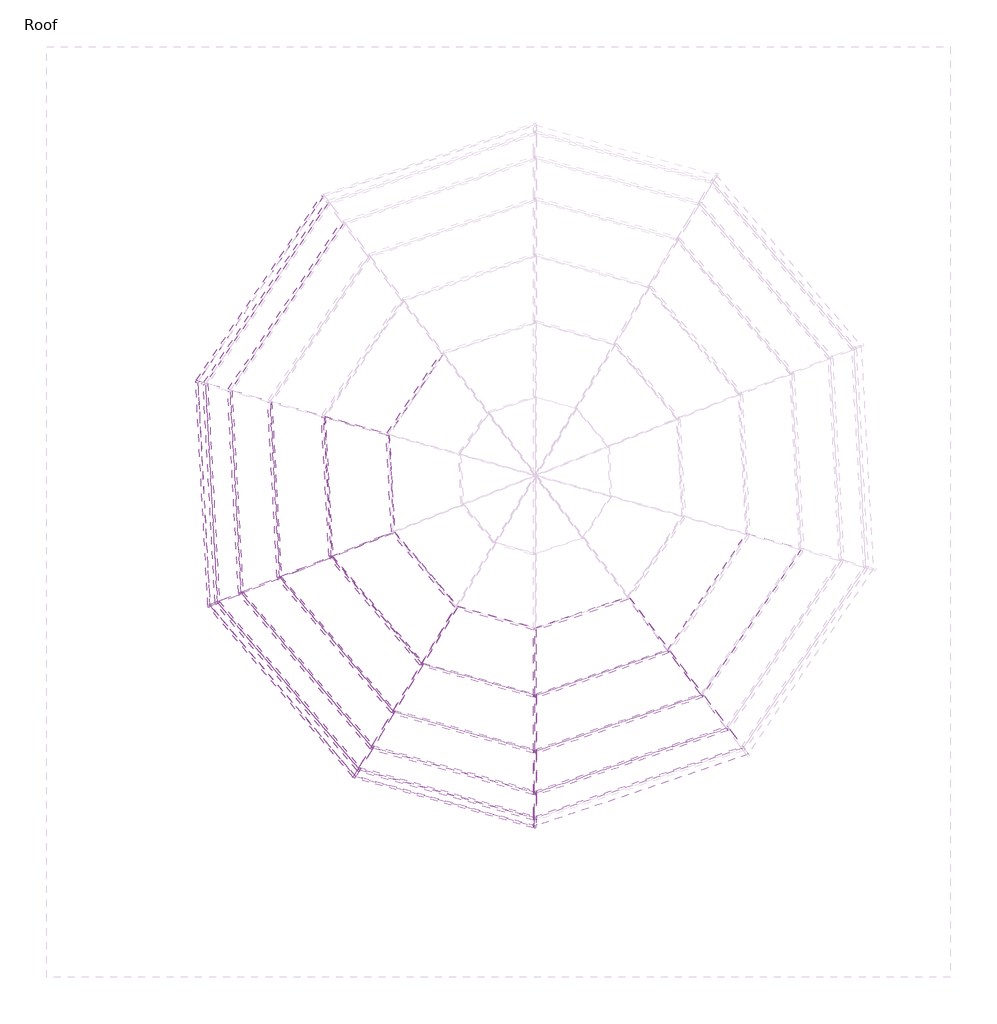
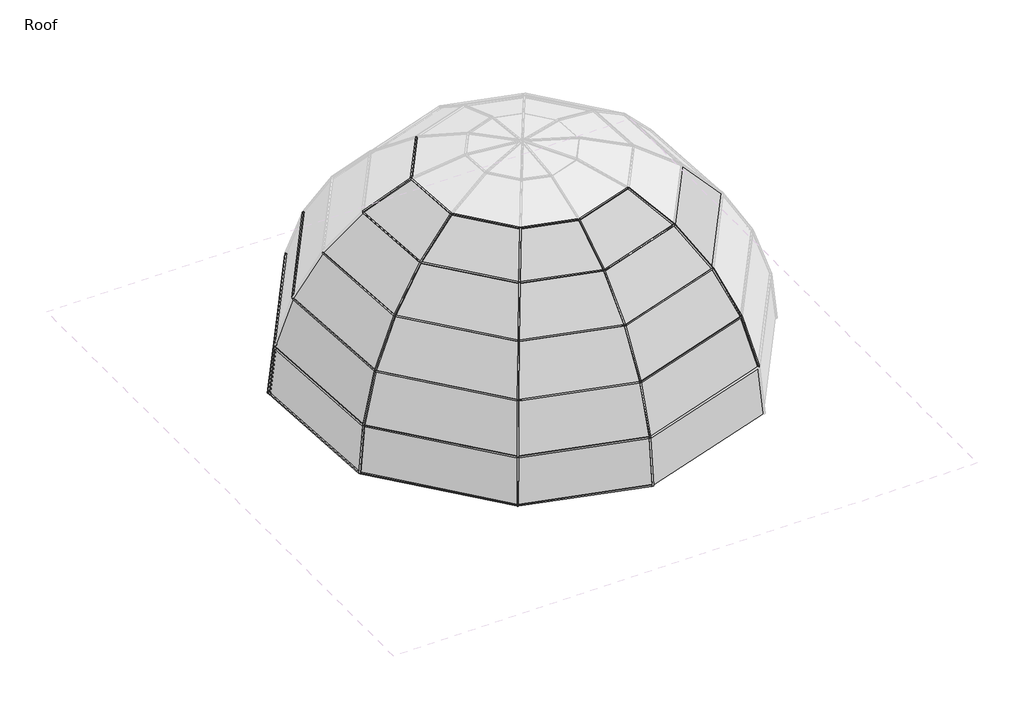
# One storey, part 1 of 3: 47 members, 21 plates.
"""IFC4 building model written with IfcOpenShell, lengths in millimetres."""

from ifc_helpers import new_model, si_unit, origin, place, context, project, spatial, transform, mapped, element, save
from components import member_3f701010, member_f9a14158, member_89d23786, member_520e2632, member_2db6e116, member_55a47f1e, member_6b381be5, member_1e756ab6, member_de8bb536, member_b4df3876, member_36e36e3b, member_bcb438f9, member_733b6783, member_63af7368, member_26d44a89, member_9a48f267, member_0322ee24, member_f8dfbb61, member_bc60f01d, member_39aef841, member_7efd2288, member_aab8bf61, member_12f75a1b, member_980850ec, system_panel_glazed_a35e3d46, system_panel_glazed_e93355c8, system_panel_glazed_0031539c, system_panel_glazed_f3dd288a, system_panel_glazed_23af2605, system_panel_glazed_f170e29b, system_panel_glazed_4e7d729c, system_panel_glazed_2310db81, system_panel_glazed_ed1eaaca, system_panel_glazed_395523a0

model = new_model("IFC4")

# Units and contexts
model_context = context("Model", 3, world=origin())
ifc_project = project(units=[si_unit("LENGTHUNIT", "METRE", prefix="MILLI")], contexts=[model_context])

# Site, building, storey
site = spatial("IfcSite", under=ifc_project)
building = spatial("IfcBuilding", under=site)
storey = spatial("IfcBuildingStorey", under=building, Name="Roof", Elevation=15240.0)

# Members
placement = place(None, origin())
member_shape = member_3f701010(model_context)
element("IfcMember", 1, ObjectType="Rectangular Mullion : 1\" Square", at=placement, inside=storey, context=model_context, shape_type="MappedRepresentation", body=[
    mapped(member_shape, transform((-4902.4292671, -6274.0172556, 20297.5362419), x_axis=(0.857018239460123, -0.5152860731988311, 0.0), y_axis=(0.48811225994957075, 0.8118230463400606, -0.3204524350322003), z_axis=(0.16512467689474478, 0.2746335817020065, 0.947264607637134))),
])
element("IfcMember", 2, ObjectType="Rectangular Mullion : 1\" Square", at=placement, inside=storey, context=model_context, shape_type="MappedRepresentation", body=[
    mapped(member_shape, transform((-6670.8806167, -4193.1887474, 20297.5362419), x_axis=(0.37035586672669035, -0.9288899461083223, 0.0), y_axis=(0.8799045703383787, 0.35082500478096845, -0.3204524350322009), z_axis=(0.297665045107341, 0.11868143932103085, 0.9472646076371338))),
])
element("IfcMember", 3, ObjectType="Rectangular Mullion : 1\" Square", at=placement, inside=storey, context=model_context, shape_type="MappedRepresentation", body=[
    mapped(member_shape, transform((-111.397025, -6013.3165579, 20297.5362419), x_axis=(0.7960457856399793, 0.6052364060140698, 0.0), y_axis=(-0.5733190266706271, 0.7540659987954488, -0.32045243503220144), z_axis=(-0.19394948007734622, 0.25509481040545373, 0.9472646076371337))),
])
member_2_shape = member_f9a14158(model_context)
element("IfcMember", 4, ObjectType="Rectangular Mullion : 1\" Square", at=placement, inside=storey, context=model_context, shape_type="MappedRepresentation", body=[
    mapped(member_2_shape, transform((-4613.935504, -5794.1975403, 21205.6147789), x_axis=(0.8570182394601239, -0.5152860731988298, 0.0), y_axis=(0.43862038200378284, 0.7295086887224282, -0.5248135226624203), z_axis=(0.2704290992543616, 0.44977476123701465, 0.851217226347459))),
])
element("IfcMember", 5, ObjectType="Rectangular Mullion : 1\" Square", at=placement, inside=storey, context=model_context, shape_type="MappedRepresentation", body=[
    mapped(member_2_shape, transform((-4227.8128628, -5152.0025279, 21964.9283585), x_axis=(0.8570182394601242, -0.5152860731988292, 0.0), y_axis=(0.3667638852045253, 0.6099977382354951, -0.7024151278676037), z_axis=(0.3619447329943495, 0.6019825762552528, 0.7117675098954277))),
])
element("IfcMember", 6, ObjectType="Rectangular Mullion : 1\" Square", at=placement, inside=storey, context=model_context, shape_type="MappedRepresentation", body=[
    mapped(member_2_shape, transform((-3763.7491786, -4380.1768133, 22536.7606794), x_axis=(0.8570182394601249, -0.515286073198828, 0.0), y_axis=(0.27620662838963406, 0.45938388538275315, -0.8442016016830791), z_axis=(0.435005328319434, 0.7234961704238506, 0.5360257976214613))),
])
element("IfcMember", 7, ObjectType="Rectangular Mullion : 1\" Square", at=placement, inside=storey, context=model_context, shape_type="MappedRepresentation", body=[
    mapped(member_2_shape, transform((-6150.8220123, -3985.8372135, 21205.6147789), x_axis=(0.3703558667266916, -0.9288899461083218, 0.0), y_axis=(0.7906871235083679, 0.31525329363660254, -0.5248135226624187), z_axis=(0.4874940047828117, 0.19436776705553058, 0.8512172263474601))),
])
element("IfcMember", 8, ObjectType="Rectangular Mullion : 1\" Square", at=placement, inside=storey, context=model_context, shape_type="MappedRepresentation", body=[
    mapped(member_2_shape, transform((-5454.7709099, -3708.31606, 21964.9283585), x_axis=(0.3703558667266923, -0.9288899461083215, 0.0), y_axis=(0.6611536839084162, 0.2636072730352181, -0.7024151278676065), z_axis=(0.6524663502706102, 0.2601435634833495, 0.711767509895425))),
])
element("IfcMember", 9, ObjectType="Rectangular Mullion : 1\" Square", at=placement, inside=storey, context=model_context, shape_type="MappedRepresentation", body=[
    mapped(member_2_shape, transform((-4618.2179482, -3374.775689, 22536.7606794), x_axis=(0.37035586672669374, -0.928889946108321, 0.0), y_axis=(0.49790897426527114, 0.19852029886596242, -0.8442016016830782), z_axis=(0.7841703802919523, 0.31265501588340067, 0.5360257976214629))),
])
element("IfcMember", 10, ObjectType="Rectangular Mullion : 1\" Square", at=placement, inside=storey, context=model_context, shape_type="MappedRepresentation", body=[
    mapped(member_2_shape, transform((-4689.9088481, -2057.274754, 22536.7606794), x_axis=(-0.26737778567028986, -0.9635917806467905, 0.0), y_axis=(0.5165100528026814, -0.14332139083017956, -0.844201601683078), z_axis=(0.81346572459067, -0.22572075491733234, 0.5360257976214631))),
])
element("IfcMember", 11, ObjectType="Rectangular Mullion : 1\" Square", at=placement, inside=storey, context=model_context, shape_type="MappedRepresentation", body=[
    mapped(member_2_shape, transform((-1448.8495202, -4254.2131534, 22536.7606794), x_axis=(0.7960457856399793, 0.6052364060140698, 0.0), y_axis=(-0.32442232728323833, 0.4267010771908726, -0.8442016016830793), z_axis=(-0.5109415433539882, 0.6720231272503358, 0.5360257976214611))),
])
element("IfcMember", 12, ObjectType="Rectangular Mullion : 1\" Square", at=placement, inside=storey, context=model_context, shape_type="MappedRepresentation", body=[
    mapped(member_2_shape, transform((-903.7770817, -4971.1274256, 21964.9283585), x_axis=(0.7960457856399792, 0.6052364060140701, 0.0), y_axis=(-0.4307876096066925, 0.5665995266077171, -0.7024151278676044), z_axis=(-0.42512720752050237, 0.5591546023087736, 0.7117675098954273))),
])
element("IfcMember", 13, ObjectType="Rectangular Mullion : 1\" Square", at=placement, inside=storey, context=model_context, shape_type="MappedRepresentation", body=[
    mapped(member_2_shape, transform((-450.2513768, -5567.6335553, 21205.6147789), x_axis=(0.7960457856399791, 0.6052364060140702, 0.0), y_axis=(-0.515187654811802, 0.6776078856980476, -0.5248135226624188), z_axis=(-0.3176362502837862, 0.41777559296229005, 0.85121722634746))),
])
member_3_shape = member_89d23786(model_context)
element("IfcMember", 14, ObjectType="Rectangular Mullion : 1\" Square", at=placement, inside=storey, context=model_context, shape_type="MappedRepresentation", body=[
    mapped(member_3_shape, transform((-2699.2140381, -7227.2248487, 19286.9943584), x_axis=(0.9639814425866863, -0.2644617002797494, 0.028280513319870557), y_axis=(0.26596950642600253, 0.9585165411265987, -0.10250005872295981), z_axis=(0.0, 0.1063299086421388, 0.9943309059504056))),
])
member_4_shape = member_520e2632(model_context)
element("IfcMember", 15, ObjectType="Rectangular Mullion : 1\" Square", at=placement, inside=storey, context=model_context, shape_type="MappedRepresentation", body=[
    mapped(member_4_shape, transform((-2699.2140381, -6885.366191, 20297.5362419), x_axis=(0.9671484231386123, -0.24080637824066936, 0.08146297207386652), y_axis=(0.2542123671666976, 0.9161454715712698, -0.30992506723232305), z_axis=(0.0, 0.3204524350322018, 0.9472646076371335))),
])
member_5_shape = member_2db6e116(model_context)
element("IfcMember", 16, ObjectType="Rectangular Mullion : 1\" Square", at=placement, inside=storey, context=model_context, shape_type="MappedRepresentation", body=[
    mapped(member_5_shape, transform((-2699.2140381, -6325.495125, 21205.6147789), x_axis=(0.9732211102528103, -0.19567014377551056, 0.12063940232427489), y_axis=(0.2298709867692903, 0.8284225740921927, -0.5107595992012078), z_axis=(0.0, 0.5248135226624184, 0.8512172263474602))),
])
member_6_shape = member_55a47f1e(model_context)
element("IfcMember", 17, ObjectType="Rectangular Mullion : 1\" Square", at=placement, inside=storey, context=model_context, shape_type="MappedRepresentation", body=[
    mapped(member_6_shape, transform((-2699.2140381, -5576.1586666, 21964.9283585), x_axis=(0.9810492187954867, -0.1379111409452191, 0.13609903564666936), y_axis=(0.1937586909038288, 0.698278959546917, -0.6891038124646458), z_axis=(0.0, 0.7024151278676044, 0.7117675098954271))),
])
member_7_shape = member_6b381be5(model_context)
element("IfcMember", 18, ObjectType="Rectangular Mullion : 1\" Square", at=placement, inside=storey, context=model_context, shape_type="MappedRepresentation", body=[
    mapped(member_7_shape, transform((-2699.2140381, -4675.5643979, 22536.7606794), x_axis=(0.989118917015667, -0.07885915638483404, 0.12419742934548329), y_axis=(0.14711821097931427, 0.5301932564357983, -0.8350157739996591), z_axis=(0.0, 0.844201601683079, 0.5360257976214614))),
])
member_8_shape = member_1e756ab6(model_context)
element("IfcMember", 19, ObjectType="Rectangular Mullion : 1\" Square", at=placement, inside=storey, context=model_context, shape_type="MappedRepresentation", body=[
    mapped(member_8_shape, transform((-5141.8560145, -6648.8732098, 18288.0), x_axis=(-0.07682385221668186, -0.06529093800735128, -0.9949046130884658), y_axis=(0.7581024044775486, 0.6442949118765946, -0.10082068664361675), z_axis=(0.6475946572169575, -0.7619850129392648, 0.0))),
])
element("IfcMember", 20, ObjectType="Rectangular Mullion : 1\" Square", at=placement, inside=storey, context=model_context, shape_type="MappedRepresentation", body=[
    mapped(member_8_shape, transform((-7088.3517404, -4346.6814659, 18288.0), x_axis=(-0.10067175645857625, -0.00547798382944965, -0.9949046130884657), y_axis=(0.9934349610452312, 0.05405707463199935, -0.10082068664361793), z_axis=(0.05433392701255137, -0.9985228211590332, 0.0))),
])
element("IfcMember", 21, ObjectType="Rectangular Mullion : 1\" Square", at=placement, inside=storey, context=model_context, shape_type="MappedRepresentation", body=[
    mapped(member_8_shape, transform((-7244.4812027, -1335.9413529, 18288.0), x_axis=(-0.08345480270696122, 0.056569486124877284, -0.9949046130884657), y_axis=(0.8235370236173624, -0.5582310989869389, -0.10082068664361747), z_axis=(-0.5610900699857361, -0.827754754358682, 0.0))),
])
member_9_shape = member_de8bb536(model_context)
element("IfcMember", 22, ObjectType="Rectangular Mullion : 1\" Square", at=placement, inside=storey, context=model_context, shape_type="MappedRepresentation", body=[
    mapped(member_9_shape, transform((-2723.6892693, -7220.4334529, 19286.9943584), x_axis=(-0.058573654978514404, -0.21109118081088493, -0.9757098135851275), y_axis=(0.2608831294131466, 0.9401859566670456, -0.21906702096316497), z_axis=(0.9635917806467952, -0.26737778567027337, 0.0))),
])
member_10_shape = member_b4df3876(model_context)
element("IfcMember", 23, ObjectType="Rectangular Mullion : 1\" Square", at=placement, inside=storey, context=model_context, shape_type="MappedRepresentation", body=[
    mapped(member_10_shape, transform((-5086.8087245, -6557.3191509, 19286.9943584), x_axis=(-0.16959745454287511, -0.1441372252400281, -0.9749159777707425), y_axis=(0.7428713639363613, 0.6313503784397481, -0.22257321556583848), z_axis=(0.6475946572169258, -0.7619850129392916, 0.0))),
])
element("IfcMember", 24, ObjectType="Rectangular Mullion : 1\" Square", at=placement, inside=storey, context=model_context, shape_type="MappedRepresentation", body=[
    mapped(member_10_shape, transform((-6989.1197276, -4307.116867, 19286.9943584), x_axis=(-0.22224443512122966, -0.012093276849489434, -0.9749159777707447), y_axis=(0.9734758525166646, 0.05297101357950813, -0.2225732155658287), z_axis=(0.05433392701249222, -0.9985228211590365, 0.0))),
])
element("IfcMember", 25, ObjectType="Rectangular Mullion : 1\" Square", at=placement, inside=storey, context=model_context, shape_type="MappedRepresentation", body=[
    mapped(member_10_shape, transform((-7141.5420416, -1364.5049475, 19286.9943584), x_axis=(-0.1842360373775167, 0.12488362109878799, -0.9749159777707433), y_axis=(0.8069913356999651, -0.5470156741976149, -0.2225732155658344), z_axis=(-0.5610900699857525, -0.8277547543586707, 0.0))),
])
member_11_shape = member_36e36e3b(model_context)
element("IfcMember", 26, ObjectType="Rectangular Mullion : 1\" Square", at=placement, inside=storey, context=model_context, shape_type="MappedRepresentation", body=[
    mapped(member_11_shape, transform((-4622.1599562, -5784.5203306, 21205.6147789), x_axis=(-0.4861581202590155, -0.4131753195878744, -0.770023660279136), y_axis=(0.586746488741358, 0.4986632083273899, -0.638015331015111), z_axis=(0.6475946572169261, -0.7619850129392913, 0.0))),
])
element("IfcMember", 27, ObjectType="Rectangular Mullion : 1\" Square", at=placement, inside=storey, context=model_context, shape_type="MappedRepresentation", body=[
    mapped(member_11_shape, transform((-6151.5120532, -3973.1559737, 21205.6147789), x_axis=(-0.6370728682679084, -0.03466587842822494, -0.7700236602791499), y_axis=(0.7688861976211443, 0.04183840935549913, -0.6380153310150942), z_axis=(0.054333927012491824, -0.9985228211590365, 0.0))),
])
member_12_shape = member_bcb438f9(model_context)
element("IfcMember", 28, ObjectType="Rectangular Mullion : 1\" Square", at=placement, inside=storey, context=model_context, shape_type="MappedRepresentation", body=[
    mapped(member_12_shape, transform((-2723.6892693, -6878.5747952, 20297.5362419), x_axis=(-0.11721342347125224, -0.422420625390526, -0.8987890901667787), y_axis=(0.24031623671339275, 0.8660657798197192, -0.4383813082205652), z_axis=(0.9635917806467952, -0.26737778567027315, 0.0))),
])
member_13_shape = member_733b6783(model_context)
element("IfcMember", 29, ObjectType="Rectangular Mullion : 1\" Square", at=placement, inside=storey, context=model_context, shape_type="MappedRepresentation", body=[
    mapped(member_13_shape, transform((-6812.1298489, -1455.9103584, 20297.5362419), x_axis=(-0.36778245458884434, 0.24929978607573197, -0.8958714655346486), y_axis=(0.7415618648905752, -0.5026645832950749, -0.4443133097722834), z_axis=(-0.5610900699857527, -0.8277547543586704, 0.0))),
])
element("IfcMember", 30, ObjectType="Rectangular Mullion : 1\" Square", at=placement, inside=storey, context=model_context, shape_type="MappedRepresentation", body=[
    mapped(member_13_shape, transform((-6671.5706575, -4180.5075076, 20297.5362419), x_axis=(-0.4436569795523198, -0.02414128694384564, -0.8958714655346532), y_axis=(0.8945481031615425, 0.048676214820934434, -0.4443133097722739), z_axis=(0.054333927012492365, -0.9985228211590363, 0.0))),
])
element("IfcMember", 31, ObjectType="Rectangular Mullion : 1\" Square", at=placement, inside=storey, context=model_context, shape_type="MappedRepresentation", body=[
    mapped(member_13_shape, transform((-4910.6537192, -6264.3400459, 20297.5362419), x_axis=(-0.33856008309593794, -0.2877349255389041, -0.8958714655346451), y_axis=(0.6826406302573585, 0.5801615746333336, -0.4443133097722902), z_axis=(0.647594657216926, -0.7619850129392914, 0.0))),
])
member_14_shape = member_63af7368(model_context)
element("IfcMember", 32, ObjectType="Rectangular Mullion : 1\" Square", at=placement, inside=storey, context=model_context, shape_type="MappedRepresentation", body=[
    mapped(member_14_shape, transform((-2723.6892693, -6318.7037293, 21205.6147789), x_axis=(-0.1688996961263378, -0.6086906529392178, -0.7752216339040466), y_axis=(0.2072770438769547, 0.7469971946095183, -0.6316893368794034), z_axis=(0.9635917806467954, -0.26737778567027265, 0.0))),
])
member_15_shape = member_26d44a89(model_context)
element("IfcMember", 33, ObjectType="Rectangular Mullion : 1\" Square", at=placement, inside=storey, context=model_context, shape_type="MappedRepresentation", body=[
    mapped(member_15_shape, transform((-5455.4609508, -3695.6348202, 21964.9283585), x_axis=(-0.7932455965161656, -0.04316390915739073, -0.6073699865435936), y_axis=(0.6064727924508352, 0.03300079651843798, -0.7944190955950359), z_axis=(0.054333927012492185, -0.9985228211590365, 0.0))),
])
element("IfcMember", 34, ObjectType="Rectangular Mullion : 1\" Square", at=placement, inside=storey, context=model_context, shape_type="MappedRepresentation", body=[
    mapped(member_15_shape, transform((-4236.037315, -5142.3253183, 21964.9283585), x_axis=(-0.6053354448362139, -0.514461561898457, -0.6073699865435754), y_axis=(0.4628068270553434, 0.39332955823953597, -0.7944190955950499), z_axis=(0.6475946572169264, -0.7619850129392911, 0.0))),
])
member_16_shape = member_9a48f267(model_context)
element("IfcMember", 35, ObjectType="Rectangular Mullion : 1\" Square", at=placement, inside=storey, context=model_context, shape_type="MappedRepresentation", body=[
    mapped(member_16_shape, transform((-2723.6892693, -5569.3672709, 21964.9283585), x_axis=(-0.21109233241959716, -0.7607469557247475, -0.6137622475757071), y_axis=(0.16410639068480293, 0.5914162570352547, -0.7894909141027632), z_axis=(0.9635917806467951, -0.2673777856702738, 0.0))),
])
member_17_shape = member_0322ee24(model_context)
element("IfcMember", 36, ObjectType="Rectangular Mullion : 1\" Square", at=placement, inside=storey, context=model_context, shape_type="MappedRepresentation", body=[
    mapped(member_17_shape, transform((-5078.5842724, -6566.9963605, 19286.9943584), x_axis=(0.8570182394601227, -0.5152860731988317, 0.0), y_axis=(0.5123648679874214, 0.8521597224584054, -0.10632990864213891), z_axis=(0.05479032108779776, 0.0911266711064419, 0.9943309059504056))),
])
element("IfcMember", 37, ObjectType="Rectangular Mullion : 1\" Square", at=placement, inside=storey, context=model_context, shape_type="MappedRepresentation", body=[
    mapped(member_17_shape, transform((-6988.4296868, -4319.7981069, 19286.9943584), x_axis=(0.3703558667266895, -0.9288899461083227, 0.0), y_axis=(0.9236239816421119, 0.36825628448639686, -0.10632990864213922), z_axis=(0.09876878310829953, 0.039379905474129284, 0.9943309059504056))),
])
element("IfcMember", 38, ObjectType="Rectangular Mullion : 1\" Square", at=placement, inside=storey, context=model_context, shape_type="MappedRepresentation", body=[
    mapped(member_17_shape, transform((-7148.6678855, -1375.0174329, 19286.9943584), x_axis=(-0.26737778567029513, -0.9635917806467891, 0.0), y_axis=(0.9581290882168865, -0.265861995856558, -0.10632990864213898), z_axis=(0.10245862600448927, -0.028430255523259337, 0.9943309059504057))),
])
member_18_shape = member_f8dfbb61(model_context)
element("IfcMember", 39, ObjectType="Rectangular Mullion : 1\" Square", at=placement, inside=storey, context=model_context, shape_type="MappedRepresentation", body=[
    mapped(member_18_shape, transform((-3771.9736307, -4370.4996037, 22536.7606794), x_axis=(-0.6920511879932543, -0.588159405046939, -0.41848974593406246), y_axis=(0.31888291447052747, 0.27101172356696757, -0.9082215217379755), z_axis=(0.6475946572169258, -0.7619850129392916, 0.0))),
])
element("IfcMember", 40, ObjectType="Rectangular Mullion : 1\" Square", at=placement, inside=storey, context=model_context, shape_type="MappedRepresentation", body=[
    mapped(member_18_shape, transform((-4682.7830042, -2046.7622686, 22536.7606794), x_axis=(-0.7517846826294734, 0.5095940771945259, -0.418489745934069), y_axis=(0.3464068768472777, -0.2348104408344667, -0.9082215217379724), z_axis=(-0.5610900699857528, -0.8277547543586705, 0.0))),
])
element("IfcMember", 41, ObjectType="Rectangular Mullion : 1\" Square", at=placement, inside=storey, context=model_context, shape_type="MappedRepresentation", body=[
    mapped(member_18_shape, transform((-4618.9079891, -3362.0944492, 22536.7606794), x_axis=(-0.9068799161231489, -0.0493472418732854, -0.41848974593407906), y_axis=(0.417871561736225, 0.022738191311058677, -0.9082215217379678), z_axis=(0.05433392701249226, -0.9985228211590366, 0.0))),
])
member_19_shape = member_bc60f01d(model_context)
element("IfcMember", 42, ObjectType="Rectangular Mullion : 1\" Square", at=placement, inside=storey, context=model_context, shape_type="MappedRepresentation", body=[
    mapped(member_19_shape, transform((-2723.6892693, -4668.7730022, 22536.7606794), x_axis=(-0.24211956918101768, -0.8725647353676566, -0.42427455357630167), y_axis=(0.11344159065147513, 0.40882747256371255, -0.9055336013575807), z_axis=(0.9635917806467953, -0.26737778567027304, 0.0))),
])
member_20_shape = member_39aef841(model_context)
element("IfcMember", 43, ObjectType="Rectangular Mullion : 1\" Square", at=placement, inside=storey, context=model_context, shape_type="MappedRepresentation", body=[
    mapped(member_20_shape, transform((-2723.6892693, -7327.2620532, 18288.0), x_axis=(-0.02740623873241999, -0.09876821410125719, -0.9947329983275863), y_axis=(0.2659695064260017, 0.9585165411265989, -0.10250005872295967), z_axis=(0.9635917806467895, -0.26737778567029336, 0.0))),
])
member_21_shape = member_7efd2288(model_context)
element("IfcMember", 44, ObjectType="Rectangular Mullion : 1\" Square", at=placement, inside=storey, context=model_context, shape_type="MappedRepresentation", body=[
    mapped(member_21_shape, transform((-1460.8845571, -4258.2687529, 22536.7606794), x_axis=(0.2900301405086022, -0.8606676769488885, -0.41848974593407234), y_axis=(-0.1336399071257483, 0.39657791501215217, -0.908221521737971), z_axis=(0.9476406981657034, 0.3193385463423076, 0.0))),
])
member_22_shape = member_aab8bf61(model_context)
element("IfcMember", 45, ObjectType="Rectangular Mullion : 1\" Square", at=placement, inside=storey, context=model_context, shape_type="MappedRepresentation", body=[
    mapped(member_22_shape, transform((-915.8121186, -4975.1830251, 21964.9283585), x_axis=(0.25368863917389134, -0.7528238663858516, -0.6073699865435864), y_axis=(-0.19395664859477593, 0.5755685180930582, -0.7944190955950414), z_axis=(0.9476406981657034, 0.31933854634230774, 0.0))),
])
member_23_shape = member_12f75a1b(model_context)
element("IfcMember", 46, ObjectType="Rectangular Mullion : 1\" Square", at=placement, inside=storey, context=model_context, shape_type="MappedRepresentation", body=[
    mapped(member_23_shape, transform((-462.2864136, -5571.6891548, 21205.6147789), x_axis=(0.2037428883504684, -0.6046092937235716, -0.7700236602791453), y_axis=(-0.2458982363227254, 0.7297057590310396, -0.6380153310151), z_axis=(0.9476406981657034, 0.3193385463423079, 0.0))),
])
member_24_shape = member_980850ec(model_context)
element("IfcMember", 47, ObjectType="Rectangular Mullion : 1\" Square", at=placement, inside=storey, context=model_context, shape_type="MappedRepresentation", body=[
    mapped(member_24_shape, transform((-123.4320618, -6017.3721574, 20297.5362419), x_axis=(0.14188636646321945, -0.4210493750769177, -0.8958714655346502), y_axis=(-0.2860862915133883, 0.8489642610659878, -0.4443133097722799), z_axis=(0.9476406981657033, 0.319338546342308, 0.0))),
])

# Plates
system_panel_glazed_shape = system_panel_glazed_a35e3d46(model_context)
element("IfcPlate", 48, ObjectType="System Panel : Glazed", at=placement, inside=storey, context=model_context, shape_type="MappedRepresentation", body=[
    mapped(system_panel_glazed_shape, transform((-2074.0317791, -4464.8887757, 22536.7606794), x_axis=(0.9476406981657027, 0.31933854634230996, 0.0), y_axis=(0.17775484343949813, -0.5274894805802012, 0.8307575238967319), z_axis=(0.2652929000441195, -0.7872596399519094, -0.55663447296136))),
])
element("IfcPlate", 49, ObjectType="System Panel : Glazed", at=placement, inside=storey, context=model_context, shape_type="MappedRepresentation", body=[
    mapped(system_panel_glazed_shape, transform((-4654.0633981, -2716.0252215, 22536.7606794), x_axis=(0.05433392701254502, -0.9985228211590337, 0.0), y_axis=(-0.5558122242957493, -0.030244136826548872, 0.8307575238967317), z_axis=(-0.8295303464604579, -0.04513831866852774, -0.5566344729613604))),
])
element("IfcPlate", 50, ObjectType="System Panel : Glazed", at=placement, inside=storey, context=model_context, shape_type="MappedRepresentation", body=[
    mapped(system_panel_glazed_shape, transform((-4190.9835634, -3877.4762512, 22536.7606794), x_axis=(0.6475946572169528, -0.7619850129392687, 0.0), y_axis=(-0.4241471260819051, -0.36047351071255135, 0.8307575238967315), z_axis=(-0.6330247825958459, -0.5379941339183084, -0.5566344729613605))),
])
system_panel_glazed_2_shape = system_panel_glazed_e93355c8(model_context)
element("IfcPlate", 51, ObjectType="System Panel : Glazed", at=placement, inside=storey, context=model_context, shape_type="MappedRepresentation", body=[
    mapped(system_panel_glazed_2_shape, transform((-3231.4816084, -4527.8706056, 22536.7606794), x_axis=(0.9635917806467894, -0.2673777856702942, 0.0), y_axis=(-0.14711821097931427, -0.5301932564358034, 0.835015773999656), z_axis=(-0.22326466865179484, -0.8046143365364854, -0.5502260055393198))),
])
system_panel_glazed_3_shape = system_panel_glazed_0031539c(model_context)
element("IfcPlate", 52, ObjectType="System Panel : Glazed", at=placement, inside=storey, context=model_context, shape_type="MappedRepresentation", body=[
    mapped(system_panel_glazed_3_shape, transform((-1801.4955599, -5273.6430461, 21964.9283585), x_axis=(0.947640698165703, 0.31933854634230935, 0.0), y_axis=(0.23323811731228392, -0.6921367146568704, 0.6830422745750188), z_axis=(0.21812172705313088, -0.6472786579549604, -0.7303788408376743))),
])
element("IfcPlate", 53, ObjectType="System Panel : Glazed", at=placement, inside=storey, context=model_context, shape_type="MappedRepresentation", body=[
    mapped(system_panel_glazed_3_shape, transform((-372.2455374, -4186.9792354, 21964.9283585), x_axis=(0.5610900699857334, 0.8277547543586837, 0.0), y_axis=(0.604574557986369, -0.40980831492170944, 0.683042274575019), z_axis=(0.5653914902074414, -0.3832482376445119, -0.7303788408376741))),
])
element("IfcPlate", 54, ObjectType="System Panel : Glazed", at=placement, inside=storey, context=model_context, shape_type="MappedRepresentation", body=[
    mapped(system_panel_glazed_3_shape, transform((-5506.2424965, -2762.3959563, 21964.9283585), x_axis=(0.05433392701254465, -0.9985228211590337, 0.0), y_axis=(-0.7292999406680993, -0.03968435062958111, 0.6830422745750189), z_axis=(-0.6820332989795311, -0.037112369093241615, -0.7303788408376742))),
])
element("IfcPlate", 55, ObjectType="System Panel : Glazed", at=placement, inside=storey, context=model_context, shape_type="MappedRepresentation", body=[
    mapped(system_panel_glazed_3_shape, transform((-4841.2918864, -4430.159294, 21964.9283585), x_axis=(0.6475946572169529, -0.7619850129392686, 0.0), y_axis=(-0.556537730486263, -0.4729894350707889, 0.6830422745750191), z_axis=(-0.5204679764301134, -0.44233452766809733, -0.730378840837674))),
])
system_panel_glazed_4_shape = system_panel_glazed_f3dd288a(model_context)
element("IfcPlate", 56, ObjectType="System Panel : Glazed", at=placement, inside=storey, context=model_context, shape_type="MappedRepresentation", body=[
    mapped(system_panel_glazed_4_shape, transform((-3463.5134505, -5364.0805973, 21964.9283585), x_axis=(0.9635917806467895, -0.26737778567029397, 0.0), y_axis=(-0.1937586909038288, -0.6982789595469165, 0.6891038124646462), z_axis=(-0.18425105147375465, -0.6640147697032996, -0.7246626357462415))),
])
system_panel_glazed_5_shape = system_panel_glazed_23af2605(model_context)
element("IfcPlate", 57, ObjectType="System Panel : Glazed", at=placement, inside=storey, context=model_context, shape_type="MappedRepresentation", body=[
    mapped(system_panel_glazed_5_shape, transform((-1574.7327074, -5946.5643402, 21205.6147789), x_axis=(0.9476406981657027, 0.3193385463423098, 0.0), y_axis=(0.27572627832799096, -0.8182208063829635, 0.5044697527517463), z_axis=(0.16109663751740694, -0.4780560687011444, -0.8634293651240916))),
])
element("IfcPlate", 58, ObjectType="System Panel : Glazed", at=placement, inside=storey, context=model_context, shape_type="MappedRepresentation", body=[
    mapped(system_panel_glazed_5_shape, transform((-6215.2952739, -2800.9785716, 21205.6147789), x_axis=(0.0543339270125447, -0.9985228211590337, 0.0), y_axis=(-0.862153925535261, -0.04691350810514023, 0.5044697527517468), z_axis=(-0.5037245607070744, -0.027409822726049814, -0.8634293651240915))),
])
element("IfcPlate", 59, ObjectType="System Panel : Glazed", at=placement, inside=storey, context=model_context, shape_type="MappedRepresentation", body=[
    mapped(system_panel_glazed_5_shape, transform((-5382.3787582, -4890.0173769, 21205.6147789), x_axis=(0.6475946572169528, -0.7619850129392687, 0.0), y_axis=(-0.6579202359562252, -0.559152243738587, 0.5044697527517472), z_axis=(-0.3843983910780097, -0.3266919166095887, -0.8634293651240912))),
])
system_panel_glazed_6_shape = system_panel_glazed_f170e29b(model_context)
element("IfcPlate", 60, ObjectType="System Panel : Glazed", at=placement, inside=storey, context=model_context, shape_type="MappedRepresentation", body=[
    mapped(system_panel_glazed_6_shape, transform((-3656.5747711, -6059.8463327, 21205.6147789), x_axis=(0.9635917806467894, -0.267377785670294, 0.0), y_axis=(-0.2298709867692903, -0.8284225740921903, 0.5107595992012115), z_axis=(-0.13656577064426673, -0.49216375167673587, -0.8597235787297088))),
])
system_panel_glazed_7_shape = system_panel_glazed_4e7d729c(model_context)
element("IfcPlate", 61, ObjectType="System Panel : Glazed", at=placement, inside=storey, context=model_context, shape_type="MappedRepresentation", body=[
    mapped(system_panel_glazed_7_shape, transform((-1405.3055315, -6449.3413744, 20297.5362419), x_axis=(0.9476406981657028, 0.31933854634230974, 0.0), y_axis=(0.3040945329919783, -0.9024039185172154, 0.3052764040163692), z_axis=(0.09748652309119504, -0.2892923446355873, -0.9522637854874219))),
])
element("IfcPlate", 62, ObjectType="System Panel : Glazed", at=placement, inside=storey, context=model_context, shape_type="MappedRepresentation", body=[
    mapped(system_panel_glazed_7_shape, transform((-6745.0681547, -2829.8057956, 20297.5362419), x_axis=(0.054333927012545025, -0.9985228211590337, 0.0), y_axis=(-0.9508571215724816, -0.051740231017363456, 0.3052764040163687), z_axis=(-0.30482545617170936, -0.016586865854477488, -0.9522637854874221))),
])
element("IfcPlate", 63, ObjectType="System Panel : Glazed", at=placement, inside=storey, context=model_context, shape_type="MappedRepresentation", body=[
    mapped(system_panel_glazed_7_shape, transform((-5786.6549419, -5233.6030015, 20297.5362419), x_axis=(0.6475946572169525, -0.761985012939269, 0.0), y_axis=(-0.7256107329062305, -0.6166809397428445, 0.30527640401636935), z_axis=(-0.23261604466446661, -0.19769536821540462, -0.9522637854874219))),
])
system_panel_glazed_8_shape = system_panel_glazed_2310db81(model_context)
element("IfcPlate", 64, ObjectType="System Panel : Glazed", at=placement, inside=storey, context=model_context, shape_type="MappedRepresentation", body=[
    mapped(system_panel_glazed_8_shape, transform((-3800.8216526, -6579.6917233, 20297.5362419), x_axis=(0.9635917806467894, -0.267377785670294, 0.0), y_axis=(-0.2542123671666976, -0.9161454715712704, 0.3099250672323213), z_axis=(-0.08286707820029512, -0.2986412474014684, -0.9507609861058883))),
])
system_panel_glazed_9_shape = system_panel_glazed_ed1eaaca(model_context)
element("IfcPlate", 65, ObjectType="System Panel : Glazed", at=placement, inside=storey, context=model_context, shape_type="MappedRepresentation", body=[
    mapped(system_panel_glazed_9_shape, transform((-1301.8528789, -6756.3382752, 19286.9943584), x_axis=(0.9476406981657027, 0.31933854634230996, 0.0), y_axis=(0.317711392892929, -0.942812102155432, 0.1008206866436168), z_axis=(0.032195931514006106, -0.09554178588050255, -0.9949046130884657))),
])
element("IfcPlate", 66, ObjectType="System Panel : Glazed", at=placement, inside=storey, context=model_context, shape_type="MappedRepresentation", body=[
    mapped(system_panel_glazed_9_shape, transform((-7068.5487861, -2847.4077699, 19286.9943584), x_axis=(0.05433392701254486, -0.9985228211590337, 0.0), y_axis=(-0.9934349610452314, -0.054057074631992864, 0.10082068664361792), z_axis=(-0.10067175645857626, -0.005477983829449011, -0.9949046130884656))),
])
element("IfcPlate", 67, ObjectType="System Panel : Glazed", at=placement, inside=storey, context=model_context, shape_type="MappedRepresentation", body=[
    mapped(system_panel_glazed_9_shape, transform((-6033.5069796, -5443.3972337, 19286.9943584), x_axis=(0.6475946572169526, -0.7619850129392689, 0.0), y_axis=(-0.7581024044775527, -0.6442949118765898, 0.10082068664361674), z_axis=(-0.07682385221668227, -0.06529093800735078, -0.9949046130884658))),
])
system_panel_glazed_10_shape = system_panel_glazed_395523a0(model_context)
element("IfcPlate", 68, ObjectType="System Panel : Glazed", at=placement, inside=storey, context=model_context, shape_type="MappedRepresentation", body=[
    mapped(system_panel_glazed_10_shape, transform((-3888.8991553, -6897.1106046, 19286.9943584), x_axis=(0.9635917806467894, -0.2673777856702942, 0.0), y_axis=(-0.2659695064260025, -0.9585165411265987, 0.10250005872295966), z_axis=(-0.027406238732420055, -0.09876821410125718, -0.9947329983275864))),
])

save(model, "model.ifc")
